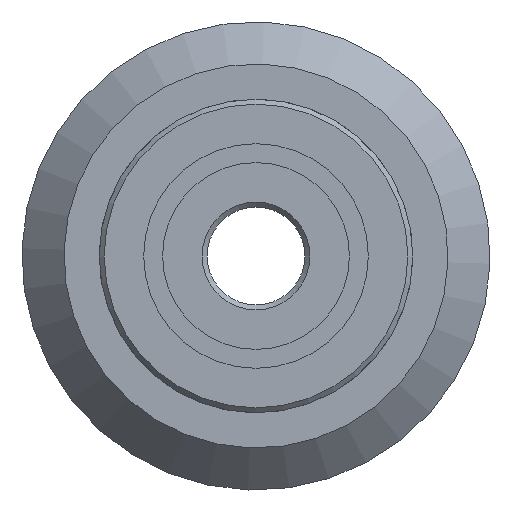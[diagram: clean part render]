
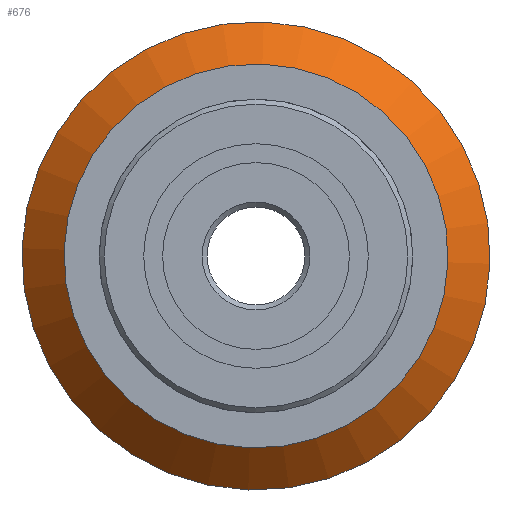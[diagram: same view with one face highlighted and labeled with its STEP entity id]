
A CAD part, left-side view. The second image highlights one B-rep face of the part: STEP entity #676.
In plain terms, the highlighted conical face has half-angle 45 degrees and reference radius 10.875 mm.
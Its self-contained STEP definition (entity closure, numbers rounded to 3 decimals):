
#113=CONICAL_SURFACE('',#825,10.875,0.785);
#156=FACE_OUTER_BOUND('',#216,.T.);
#216=EDGE_LOOP('',(#585,#586,#587,#588));
#246=LINE('',#1255,#268);
#268=VECTOR('',#1042,10.875);
#318=CIRCLE('',#824,9.8);
#319=CIRCLE('',#826,11.95);
#382=VERTEX_POINT('',#1250);
#383=VERTEX_POINT('',#1253);
#451=EDGE_CURVE('',#382,#382,#318,.T.);
#452=EDGE_CURVE('',#383,#383,#319,.T.);
#453=EDGE_CURVE('',#383,#382,#246,.T.);
#585=ORIENTED_EDGE('',*,*,#452,.F.);
#586=ORIENTED_EDGE('',*,*,#453,.T.);
#587=ORIENTED_EDGE('',*,*,#451,.T.);
#588=ORIENTED_EDGE('',*,*,#453,.F.);
#676=ADVANCED_FACE('',(#156),#113,.T.);
#824=AXIS2_PLACEMENT_3D('',#1251,#1036,#1037);
#825=AXIS2_PLACEMENT_3D('',#1252,#1038,#1039);
#826=AXIS2_PLACEMENT_3D('',#1254,#1040,#1041);
#1036=DIRECTION('center_axis',(1.,0.,0.));
#1037=DIRECTION('ref_axis',(0.,0.,-1.));
#1038=DIRECTION('center_axis',(1.,0.,0.));
#1039=DIRECTION('ref_axis',(0.,1.,0.));
#1040=DIRECTION('center_axis',(1.,0.,0.));
#1041=DIRECTION('ref_axis',(0.,0.,-1.));
#1042=DIRECTION('',(-0.707,0.707,0.));
#1250=CARTESIAN_POINT('',(-0.227,4.866,0.));
#1251=CARTESIAN_POINT('Origin',(-0.227,14.666,0.));
#1252=CARTESIAN_POINT('Origin',(0.848,14.666,0.));
#1253=CARTESIAN_POINT('',(1.923,2.716,0.));
#1254=CARTESIAN_POINT('Origin',(1.923,14.666,0.));
#1255=CARTESIAN_POINT('',(0.848,3.791,0.));
